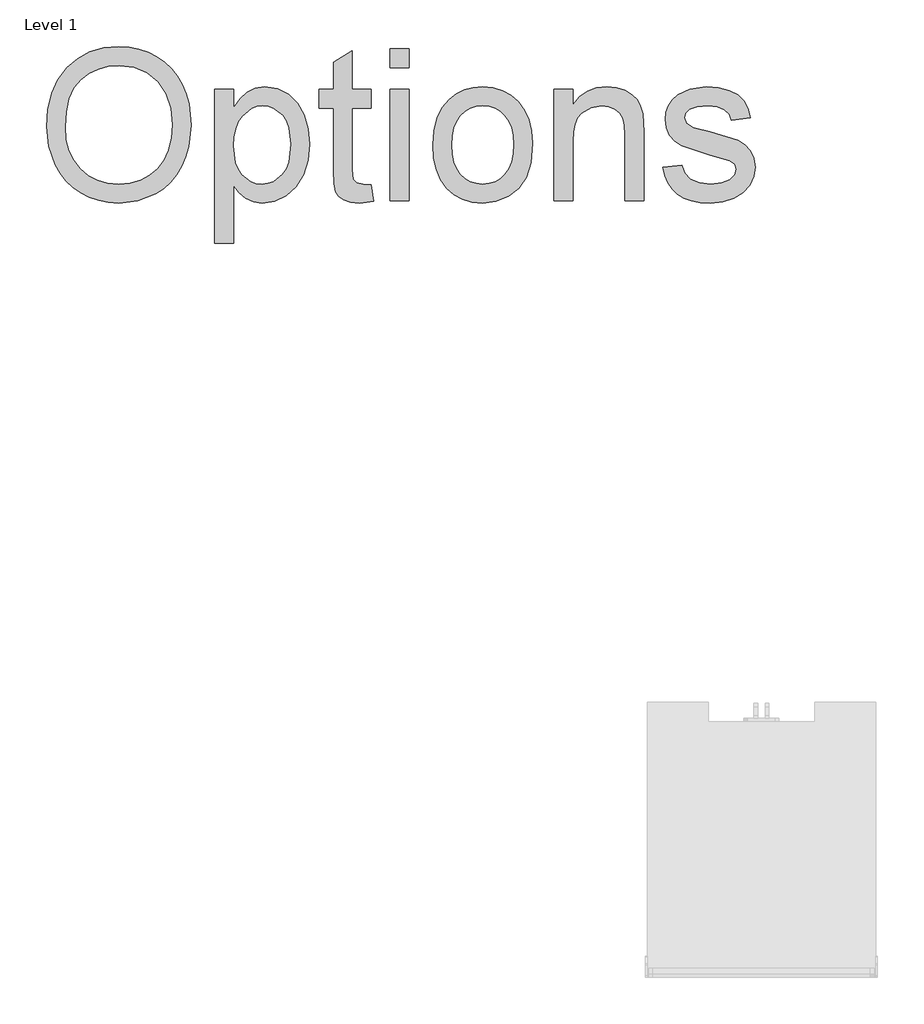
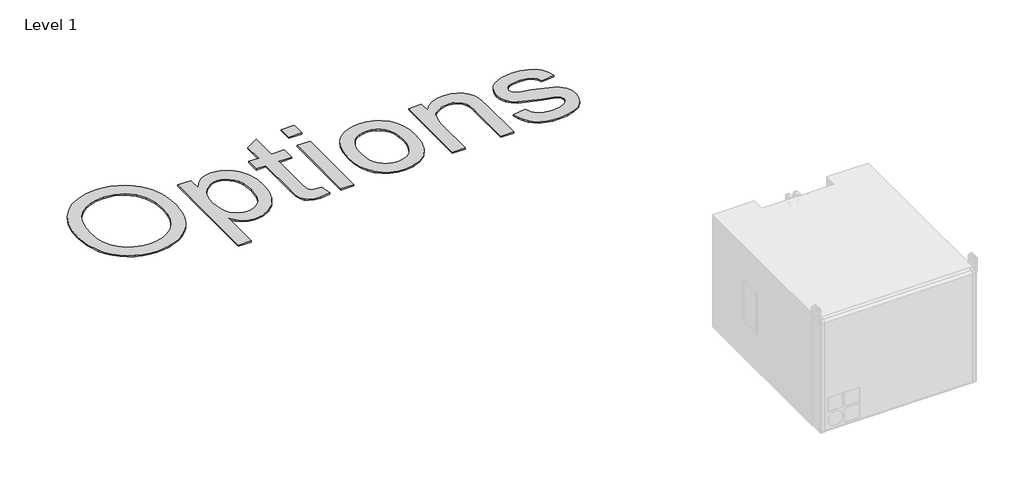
# One storey, part 31 of 31: 1 proxy.
"""IFC4 building model written with IfcOpenShell, lengths in millimetres."""

from ifc_helpers import new_model, si_unit, origin, origin_with_axes, place, context, project, spatial, polyline, outline, extrude, element, save

model = new_model("IFC4")

# Units and contexts
model_context = context("Model", 3, world=origin())
ifc_project = project(units=[si_unit("LENGTHUNIT", "METRE", prefix="MILLI")], contexts=[model_context])

# Site, building, storey
site = spatial("IfcSite", under=ifc_project)
building = spatial("IfcBuilding", under=site)
storey = spatial("IfcBuildingStorey", under=building, Name="Level 1", Elevation=0.0)

# Proxy
placement = place(None, origin())
element("IfcBuildingElementProxy", 1, Name="400mm Arial", ObjectType="400mm Arial", at=placement, inside=storey, context=model_context, shape_type="SweptSolid", body=[
    extrude(outline(polyline([(16150.5618614, 17542.0194987), (16153.8257108, 17587.9704339), (16163.6172591, 17628.6489968), (16179.9365063, 17664.0551876), (16202.7834523, 17694.1890063), (16230.7891933, 17718.2494348), (16262.5848254, 17735.4354552), (16298.1703486, 17745.7470674), (16337.5457629, 17749.1842715), (16363.901646, 17747.57028), (16388.9304693, 17742.7283055), (16412.6322331, 17734.6583482), (16435.0069371, 17723.3604078), (16455.4269182, 17709.1752161), (16473.2645129, 17692.4435044), (16488.5197212, 17673.1652729), (16501.1925432, 17651.3405215), (16511.1514684, 17627.4654031), (16518.2649864, 17602.0360707), (16523.9558008, 17546.5147639), (16517.9660991, 17490.2522165), (16510.478972, 17464.4701971), (16499.996994, 17440.2543472), (16486.7682416, 17418.2442857), (16471.0407913, 17399.0796313), (16452.8146431, 17382.7603841), (16432.089797, 17369.2865442), (16386.4078604, 17351.2098396), (16337.2588311, 17345.1842715), (16310.4426616, 17346.8490738), (16285.0850621, 17351.8434807), (16261.1860328, 17360.1674923), (16238.7455735, 17371.8211086), (16218.3495034, 17386.3530096), (16200.5836417, 17403.3118756), (16185.4479883, 17422.6977066), (16172.9425432, 17444.5105025), (16156.1570318, 17491.91403), (16150.5618614, 17542.0194987)]), holes=[polyline([(16199.5315584, 17541.541279), (16201.9794454, 17509.0761393), (16209.3231067, 17480.2574249), (16221.562542, 17455.0851356), (16238.6977515, 17433.5592715), (16259.5272082, 17416.3194514), (16282.8493851, 17404.0052942), (16308.6642821, 17396.6167999), (16336.9718993, 17394.1539684), (16365.7637139, 17396.6407108), (16391.883476, 17404.1009381), (16415.3311855, 17416.5346502), (16436.1068425, 17433.9418472), (16453.1165193, 17455.92202), (16465.2662885, 17482.0746597), (16472.55615, 17512.3997662), (16474.9861038, 17546.8973396), (16470.8255925, 17590.2479552), (16458.3440584, 17627.7164684), (16437.8642998, 17658.3583955), (16409.7091152, 17681.2292525), (16375.7435612, 17695.468244), (16337.8326947, 17700.2145745), (16310.5084168, 17697.9280866), (16285.1567951, 17691.0686228), (16261.7778297, 17679.6361831), (16240.3715205, 17663.6307677), (16222.5040371, 17642.2812471), (16209.7415489, 17614.8164921), (16202.084056, 17581.2365027), (16199.5315584, 17541.541279)])]), origin_with_axes(), (0.0, 0.0, 1.0), 5.0),
    extrude(outline(polyline([(16585.167922, 17241.1236654), (16585.167922, 17639.0024533), (16634.137619, 17639.0024533), (16634.137619, 17590.9891957), (16650.1101568, 17614.6730262), (16667.9955735, 17631.590048), (16688.8459523, 17641.740261), (16713.7133765, 17645.1236654), (16746.8300906, 17640.3892904), (16775.7862932, 17626.1861654), (16799.3625243, 17603.3750858), (16816.3393235, 17572.8168472), (16826.597136, 17536.7351711), (16830.0164068, 17497.353779), (16826.1547828, 17455.4736891), (16814.5699106, 17418.0171313), (16795.6324106, 17386.885029), (16769.7129031, 17363.9783055), (16739.5252847, 17349.88278), (16707.7834523, 17345.1842715), (16685.2712601, 17348.328566), (16665.1740773, 17357.7614495), (16647.9701237, 17372.000441), (16634.137619, 17389.5630593), (16634.137619, 17241.1236654), (16585.167922, 17241.1236654)]), holes=[polyline([(16634.137619, 17492.8585139), (16639.4339021, 17448.9579457), (16646.054256, 17431.9572355), (16655.3227515, 17418.2562411), (16678.7674722, 17400.1795366), (16692.1845236, 17395.6603605), (16706.731369, 17394.1539684), (16721.4874355, 17395.7141602), (16735.1495745, 17400.3947355), (16759.1920697, 17419.1170366), (16768.7534748, 17433.3141839), (16775.5830498, 17450.9425574), (16781.0467099, 17496.4929836), (16775.7145603, 17540.1544419), (16769.0493732, 17557.2866625), (16759.7181114, 17571.2865442), (16736.3092572, 17589.9371124), (16723.0446384, 17594.5997544), (16708.7398917, 17596.1539684), (16694.4799781, 17594.5011216), (16681.0629267, 17589.5425811), (16656.7574106, 17569.7084192), (16646.8612518, 17554.9882191), (16639.7925669, 17537.2731682), (16635.5513559, 17516.5632665), (16634.137619, 17492.8585139)])]), origin_with_axes(), (0.0, 0.0, 1.0), 5.0),
    extrude(outline(polyline([(16989.167922, 17392.1454457), (16995.2891341, 17349.8708245), (16958.6575053, 17345.1842715), (16935.1530072, 17347.2167052), (16917.6262553, 17353.3140063), (16905.2403652, 17362.7110233), (16897.1584523, 17374.6426048), (16892.7110091, 17395.1343188), (16891.2285281, 17430.2117336), (16891.2285281, 17590.0327563), (16854.5012553, 17590.0327563), (16854.5012553, 17639.0024533), (16891.2285281, 17639.0024533), (16891.2285281, 17708.918173), (16940.198225, 17737.7069987), (16940.198225, 17639.0024533), (16989.167922, 17639.0024533), (16989.167922, 17590.0327563), (16940.198225, 17590.0327563), (16940.198225, 17431.6463927), (16942.7806114, 17406.3963927), (16951.1494561, 17397.4536843), (16967.8393235, 17394.1539684), (16989.167922, 17392.1454457)])), origin_with_axes(), (0.0, 0.0, 1.0), 5.0),
    extrude(outline(polyline([(17038.137619, 17694.0933624), (17038.137619, 17743.0630593), (17087.1073159, 17743.0630593), (17087.1073159, 17694.0933624), (17038.137619, 17694.0933624)])), origin_with_axes(), (0.0, 0.0, 1.0), 5.0),
    extrude(outline(polyline([(17038.137619, 17351.3054836), (17038.137619, 17639.0024533), (17087.1073159, 17639.0024533), (17087.1073159, 17351.3054836), (17038.137619, 17351.3054836)])), origin_with_axes(), (0.0, 0.0, 1.0), 5.0),
    extrude(outline(polyline([(17148.3194371, 17495.1539684), (17150.9675787, 17532.4132606), (17158.9120034, 17564.5197355), (17172.1527113, 17591.4733931), (17190.6897023, 17613.2742336), (17209.352226, 17627.20836), (17229.9515394, 17637.1613074), (17252.4876426, 17643.1330759), (17276.9605356, 17645.1236654), (17303.9769596, 17642.6996893), (17328.4050195, 17635.427761), (17350.2447153, 17623.3078806), (17369.496047, 17606.340048), (17385.2085529, 17585.0981268), (17396.4317714, 17560.1559807), (17403.1657025, 17531.5136098), (17405.4103462, 17499.1710139), (17401.4411228, 17449.6991862), (17389.5334523, 17412.0393851), (17370.0340442, 17383.8363785), (17343.2896076, 17362.7349343), (17311.5238642, 17349.5719372), (17276.9605356, 17345.1842715), (17249.5495804, 17347.5992809), (17224.8943661, 17354.8443093), (17202.9948929, 17366.9193567), (17183.8511606, 17383.824423), (17168.3060316, 17405.2725764), (17157.202368, 17430.9768851), (17150.5401699, 17460.9373491), (17148.3194371, 17495.1539684)]), holes=[polyline([(17197.2891341, 17495.2496124), (17198.70586, 17471.4970378), (17202.9560375, 17450.9306019), (17210.0396668, 17433.5503048), (17219.9567478, 17419.3561465), (17232.0198396, 17408.3301936), (17245.5415015, 17400.4545129), (17260.5217336, 17395.7291045), (17276.9605356, 17394.1539684), (17293.3156493, 17395.7380712), (17308.2361038, 17400.4903794), (17321.7218993, 17408.4108931), (17333.7730356, 17419.4996124), (17343.6901166, 17433.8342478), (17350.7737459, 17451.4925101), (17355.0239234, 17472.4743993), (17356.4406493, 17496.7799154), (17355.0149568, 17519.7792939), (17350.7378794, 17539.8077326), (17343.609417, 17556.8652314), (17333.6295697, 17570.9517904), (17321.5336003, 17581.9777433), (17308.0567714, 17589.8534239), (17293.1990832, 17594.5788323), (17276.9605356, 17596.1539684), (17260.5217336, 17594.58481), (17245.5415015, 17589.8773349), (17232.0198396, 17582.031543), (17219.9567478, 17571.0474343), (17210.0396668, 17556.8951202), (17202.9560375, 17539.5447118), (17198.70586, 17518.9962092), (17197.2891341, 17495.2496124)])]), origin_with_axes(), (0.0, 0.0, 1.0), 5.0),
    extrude(outline(polyline([(17460.5012553, 17351.3054836), (17460.5012553, 17639.0024533), (17509.4709523, 17639.0024533), (17509.4709523, 17598.8319987), (17526.483618, 17619.0846029), (17546.9155546, 17633.5507487), (17570.766762, 17642.2304362), (17598.0372402, 17645.1236654), (17622.1753794, 17642.7923444), (17644.2810849, 17635.7983813), (17662.7164542, 17625.0145271), (17675.8435849, 17611.3135328), (17684.7504267, 17594.7312648), (17690.5249296, 17575.3035896), (17693.1073159, 17527.9598396), (17693.1073159, 17351.3054836), (17644.137619, 17351.3054836), (17644.137619, 17521.3604078), (17642.7268709, 17546.6821408), (17638.4946265, 17564.6871124), (17630.68769, 17577.5870887), (17618.5528652, 17587.5938358), (17602.9987695, 17594.0139353), (17584.9340205, 17596.1539684), (17556.2527942, 17591.3478605), (17531.8038121, 17576.9295366), (17522.033186, 17565.1593543), (17515.0541673, 17549.0732393), (17510.866756, 17528.6711914), (17509.4709523, 17503.9532108), (17509.4709523, 17351.3054836), (17460.5012553, 17351.3054836)])), origin_with_axes(), (0.0, 0.0, 1.0), 5.0),
    extrude(outline(polyline([(17742.0770129, 17437.0024533), (17791.0467099, 17443.1236654), (17798.769958, 17422.1776427), (17813.7143235, 17406.7789684), (17835.9754504, 17397.3102184), (17865.6489826, 17394.1539684), (17894.96385, 17397.0471976), (17915.575119, 17405.7268851), (17927.7697212, 17418.3040631), (17931.8345887, 17432.8897639), (17927.7458103, 17445.371298), (17915.479475, 17454.8878699), (17865.075119, 17468.8518851), (17791.3336417, 17492.8106919), (17772.671118, 17504.8498728), (17759.1494561, 17520.7865442), (17750.9360328, 17539.6044893), (17748.198225, 17560.2874911), (17750.3980356, 17579.2608576), (17756.9974675, 17596.775654), (17767.3987459, 17612.1384618), (17781.0040962, 17624.6558624), (17812.1361985, 17639.1459192), (17854.2673538, 17645.1236654), (17886.1406966, 17642.7206114), (17913.8535281, 17635.5114495), (17936.1385659, 17624.2015536), (17951.7285281, 17609.496298), (17962.0580735, 17590.3077326), (17968.5618614, 17565.5479078), (17919.5921644, 17559.4266957), (17913.4111748, 17574.8373254), (17901.1807061, 17586.4461086), (17882.7812032, 17593.7270035), (17858.0931114, 17596.1539684), (17829.9737932, 17593.8346029), (17811.2275811, 17586.8765063), (17800.6828368, 17576.8338927), (17797.167922, 17565.260976), (17803.0022023, 17551.010029), (17821.2701947, 17540.2022639), (17863.449172, 17529.7770745), (17935.3255925, 17506.7268851), (17954.3109144, 17495.7039211), (17968.7053273, 17480.6160896), (17977.7795461, 17461.4155688), (17980.8042856, 17438.0545366), (17977.2535044, 17413.9044419), (17966.6011606, 17391.1890063), (17949.2537411, 17371.6895982), (17925.6177326, 17357.1875858), (17897.0680167, 17348.1851), (17864.979475, 17345.1842715), (17838.623592, 17346.630886), (17815.6032913, 17350.9707298), (17795.918573, 17358.2038027), (17779.5694371, 17368.3301048), (17766.2151521, 17381.3018141), (17755.5149864, 17397.0711086), (17747.46894, 17415.6379883), (17742.0770129, 17437.0024533)])), origin_with_axes(), (0.0, 0.0, 1.0), 5.0),
])

save(model, "model.ifc")
